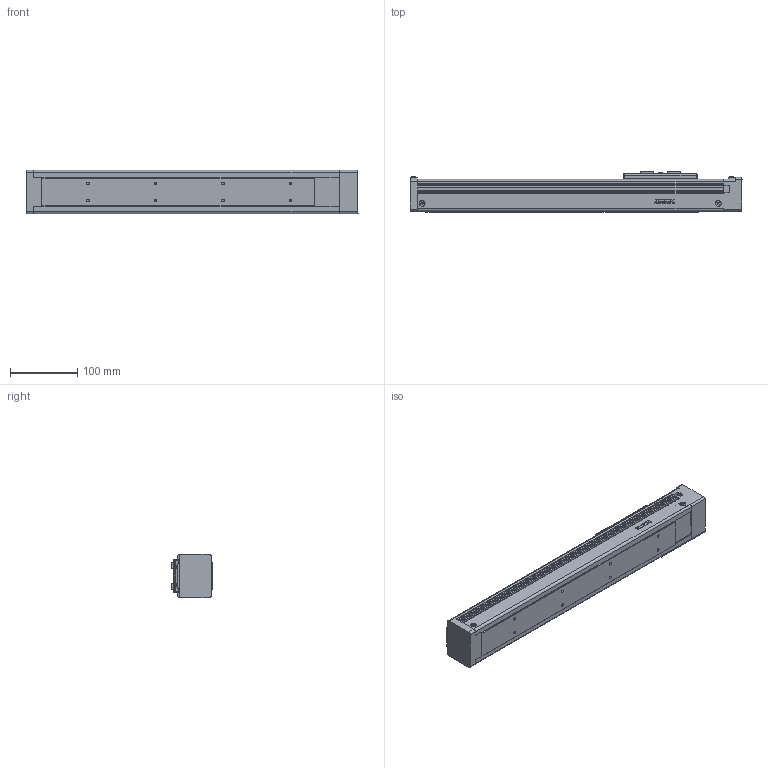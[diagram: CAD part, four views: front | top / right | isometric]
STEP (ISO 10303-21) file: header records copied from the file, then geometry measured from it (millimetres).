
FILE_DESCRIPTION(/* description */ (''),/* implementation_level */ '2;1');
FILE_NAME(/* name */ 'D:\混合母檔20191031\混和母檔\混和母檔\bin\Debug\Download\3D\KE655C-300AF0\KE655C-300AF0.stp',/* time_stamp */ '2019-11-04T13:46:15+08:00',/* author */ ('user'),/* organization */ (''),/* preprocessor_version */ 'ST-DEVELOPER v16.13',/* originating_system */ 'Autodesk Inventor 2018',/* authorisation */ '');
FILE_SCHEMA (('AUTOMOTIVE_DESIGN { 1 0 10303 214 3 1 1 }'));
Length unit declared in the file: millimetre
Products named in the file (3): KE655C-300AF0; KE65-F0-BP; KE65-SL
Assembly tree (2 placements, depth 2):
  KE655C-300AF0
    KE65-F0-BP
    KE65-SL
Bounding box: 492 x 60 x 64.57 mm (x, y, z)
Volume: 1449160.1 mm3; surface area: 166364.9 mm2
Topology: 2 solids, 17 shells, 1080 faces, 2928 edges, 1920 vertices
Faces by surface type: plane 581, cone 162, cylinder 137, bspline 136, torus 54, sphere 10
Full cylindrical faces by diameter (mm): 2.459 x8, 2.729 x4, 3 x4, 3.242 x8, 3.5 x6, 3.571 x4, 4.134 x8, 4.2 x4, 6 x1, 8 x1, 8.4 x8, 30 x1
Entity records: 39383 total; most frequent: CARTESIAN_POINT 12907, ORIENTED_EDGE 5444, DIRECTION 4898, EDGE_CURVE 2722, VERTEX_POINT 1849, LINE 1652, VECTOR 1652, AXIS2_PLACEMENT_3D 1623
